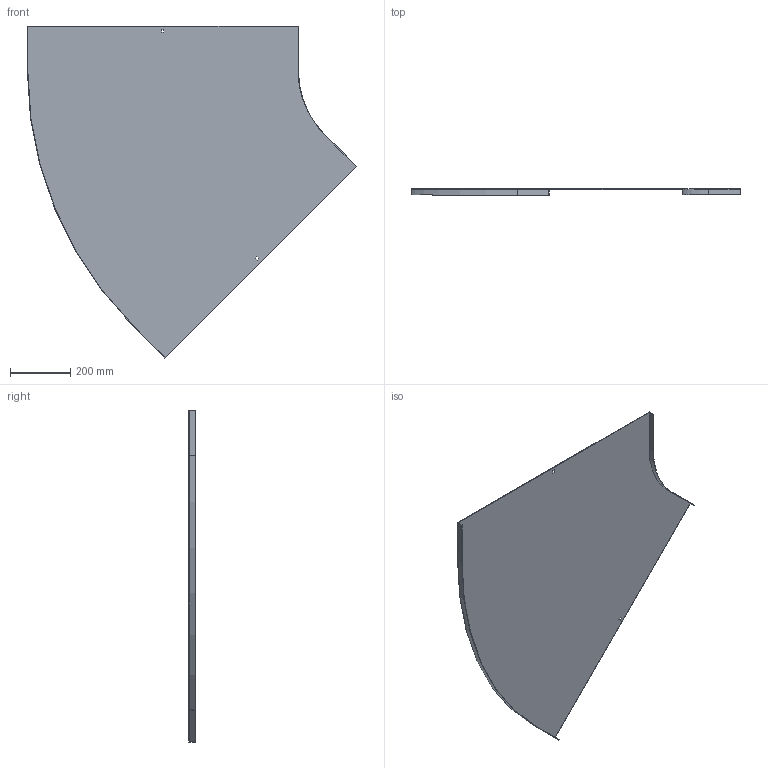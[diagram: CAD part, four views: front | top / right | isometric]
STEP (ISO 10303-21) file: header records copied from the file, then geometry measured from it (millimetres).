
FILE_DESCRIPTION (( 'STEP AP214' ), '1' );
FILE_NAME ('A2_11N3R900.step', '2025-02-21T10:50:52', ( '' ), ( '' ), 'SwSTEP 2.0', 'SolidWorks 2023', '' );
FILE_SCHEMA (( 'AUTOMOTIVE_DESIGN' ));
Length unit declared in the file: millimetre
Products named in the file (1): A2_11N3R900
Bounding box: 1096.49 x 20 x 1105.65 mm (x, y, z)
Volume: 1253383.1 mm3; surface area: 1676757.6 mm2
Topology: 1 solids, 1 shells, 26 faces, 72 edges, 48 vertices
Faces by surface type: plane 22, cylinder 4
Entity records: 855 total; most frequent: CARTESIAN_POINT 147, ORIENTED_EDGE 144, DIRECTION 134, EDGE_CURVE 72, LINE 64, VECTOR 64, VERTEX_POINT 48, AXIS2_PLACEMENT_3D 35
